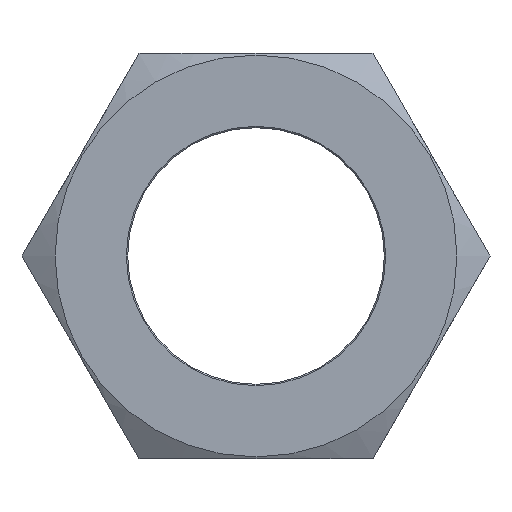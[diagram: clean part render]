
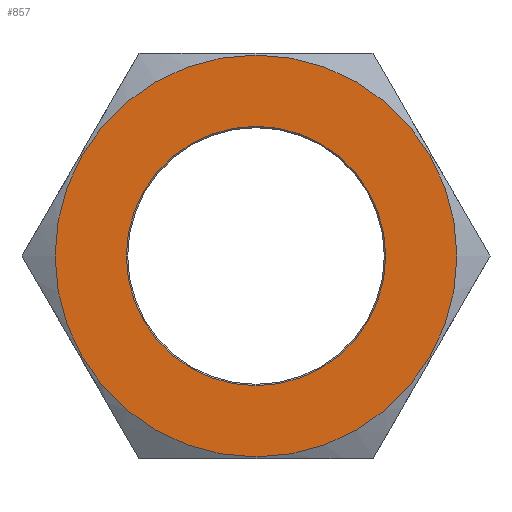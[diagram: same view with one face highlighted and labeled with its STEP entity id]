
A CAD part, left-side view. The second image highlights one B-rep face of the part: STEP entity #857.
In plain terms, the highlighted planar face has unit normal (-1, 0, 0) as drawn and (0, 0, 1) by its records, which use the part's own axes.
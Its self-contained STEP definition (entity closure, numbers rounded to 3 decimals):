
#141=CARTESIAN_POINT('',(29.75,0.0,16.5));
#142=VERTEX_POINT('',#141);
#151=CARTESIAN_POINT('',(-29.75,0.,16.5));
#152=VERTEX_POINT('',#151);
#153=CARTESIAN_POINT('',(0.,0.0,16.5));
#154=DIRECTION('',(0.0,0.0,1.0));
#155=DIRECTION('',(1.0,0.0,0.0));
#156=AXIS2_PLACEMENT_3D('',#153,#154,#155);
#157=CIRCLE('',#156,29.75);
#158=EDGE_CURVE('',#152,#142,#157,.T.);
#471=CARTESIAN_POINT('',(0.,19.2,16.5));
#472=VERTEX_POINT('',#471);
#480=CARTESIAN_POINT('',(0.,-19.2,16.5));
#481=VERTEX_POINT('',#480);
#488=CARTESIAN_POINT('',(0.,0.,16.5));
#489=DIRECTION('',(0.0,0.0,-1.0));
#490=DIRECTION('',(0.0,1.0,0.0));
#491=AXIS2_PLACEMENT_3D('',#488,#489,#490);
#492=CIRCLE('',#491,19.2);
#493=EDGE_CURVE('',#472,#481,#492,.T.);
#504=CARTESIAN_POINT('',(0.,0.,16.5));
#505=DIRECTION('',(0.0,0.0,-1.0));
#506=DIRECTION('',(0.0,1.0,0.0));
#507=AXIS2_PLACEMENT_3D('',#504,#505,#506);
#508=CIRCLE('',#507,19.2);
#509=EDGE_CURVE('',#481,#472,#508,.T.);
#728=CARTESIAN_POINT('',(0.,0.0,16.5));
#729=DIRECTION('',(0.0,0.0,1.0));
#730=DIRECTION('',(1.0,0.0,0.0));
#731=AXIS2_PLACEMENT_3D('',#728,#729,#730);
#732=CIRCLE('',#731,29.75);
#733=EDGE_CURVE('',#142,#152,#732,.T.);
#844=CARTESIAN_POINT('',(0.0,0.,16.5));
#845=DIRECTION('',(0.0,0.0,1.0));
#846=DIRECTION('',(1.0,0.0,0.0));
#847=AXIS2_PLACEMENT_3D('',#844,#845,#846);
#848=PLANE('',#847);
#849=ORIENTED_EDGE('',*,*,#733,.T.);
#850=ORIENTED_EDGE('',*,*,#158,.T.);
#851=EDGE_LOOP('',(#849,#850));
#852=FACE_OUTER_BOUND('',#851,.T.);
#853=ORIENTED_EDGE('',*,*,#493,.T.);
#854=ORIENTED_EDGE('',*,*,#509,.T.);
#855=EDGE_LOOP('',(#853,#854));
#856=FACE_BOUND('',#855,.T.);
#857=ADVANCED_FACE('',(#852,#856),#848,.T.);
